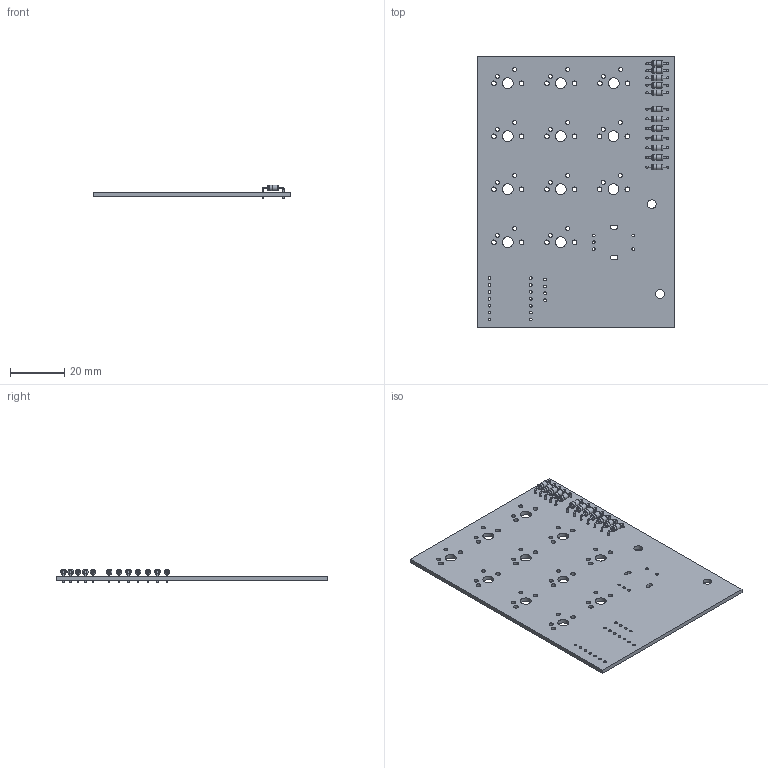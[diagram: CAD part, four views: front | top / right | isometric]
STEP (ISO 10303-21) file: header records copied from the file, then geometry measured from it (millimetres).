
FILE_DESCRIPTION(('KiCad electronic assembly'),'2;1');
FILE_NAME('Hackpad.step','2026-07-28T20:28:34',('Pcbnew'),('Kicad'), 'Open CASCADE STEP processor 7.9','KiCad to STEP converter','Unknown' );
FILE_SCHEMA(('AUTOMOTIVE_DESIGN { 1 0 10303 214 1 1 1 1 }'));
Length unit declared in the file: millimetre
Products named in the file (4): Hackpad 1; D_DO-35_SOD27_P7.62mm_Horizontal; Hac51D8_PCB
Assembly tree (14 placements, depth 3):
  Hackpad 1
    D_DO-35_SOD27_P7.62mm_Horizontal  x12
      D_DO-35_SOD27_P7.62mm_Horizontal
    Hac51D8_PCB
Bounding box: 72.75 x 100 x 5.01 mm (x, y, z)
Volume: 10744 mm3; surface area: 15948.4 mm2
Topology: 25 solids, 25 shells, 310 faces, 636 edges, 400 vertices
Faces by surface type: cylinder 180, plane 82, torus 48
Full cylindrical faces by diameter (mm): 0.5 x36, 0.8 x24, 1 x23, 1.5 x22, 1.7 x22, 2 x24, 2.02 x12, 3.2 x2, 4 x11
Entity records: 5119 total; most frequent: DIRECTION 904, CARTESIAN_POINT 767, ORIENTED_EDGE 744, AXIS2_PLACEMENT_3D 383, EDGE_CURVE 372, FACE_BOUND 348, EDGE_LOOP 348, VERTEX_POINT 246
